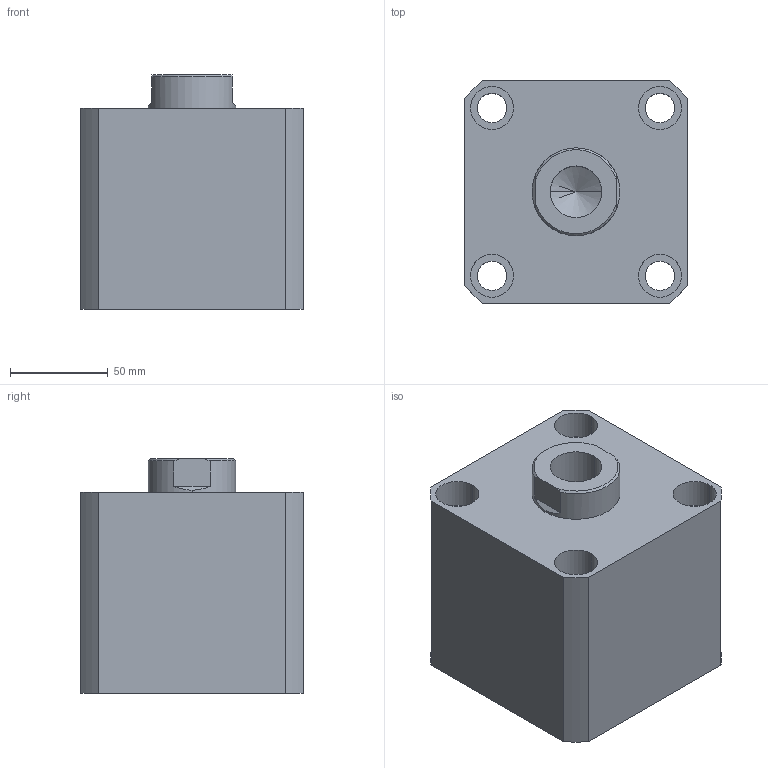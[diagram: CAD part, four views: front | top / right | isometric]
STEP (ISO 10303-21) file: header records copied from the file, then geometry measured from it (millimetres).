
FILE_DESCRIPTION (( 'STEP AP203' ), '1' );
FILE_NAME ('HTB-SDMB80-25N.STEP', '2019-10-09T06:00:36', ( '微软用户' ), ( '微软中国' ), 'SwSTEP 2.0', 'SolidWorks 2012', '' );
FILE_SCHEMA (( 'CONFIG_CONTROL_DESIGN' ));
Length unit declared in the file: millimetre
Products named in the file (3): HTB-SDMB80-25掛极; HTB-SDMB80-25N活塞杆; HTB-SDMB80-25N
Assembly tree (2 placements, depth 2):
  HTB-SDMB80-25N
    HTB-SDMB80-25掛极
    HTB-SDMB80-25N活塞杆
Bounding box: 114 x 114 x 120 mm (x, y, z)
Volume: 1142197.9 mm3; surface area: 148502.2 mm2
Topology: 2 solids, 2 shells, 137 faces, 331 edges, 217 vertices
Faces by surface type: plane 65, cylinder 46, bspline 16, torus 6, cone 4
Entity records: 5070 total; most frequent: CARTESIAN_POINT 1576, ORIENTED_EDGE 658, DIRECTION 647, EDGE_CURVE 329, AXIS2_PLACEMENT_3D 232, VERTEX_POINT 217, VECTOR 183, LINE 183
